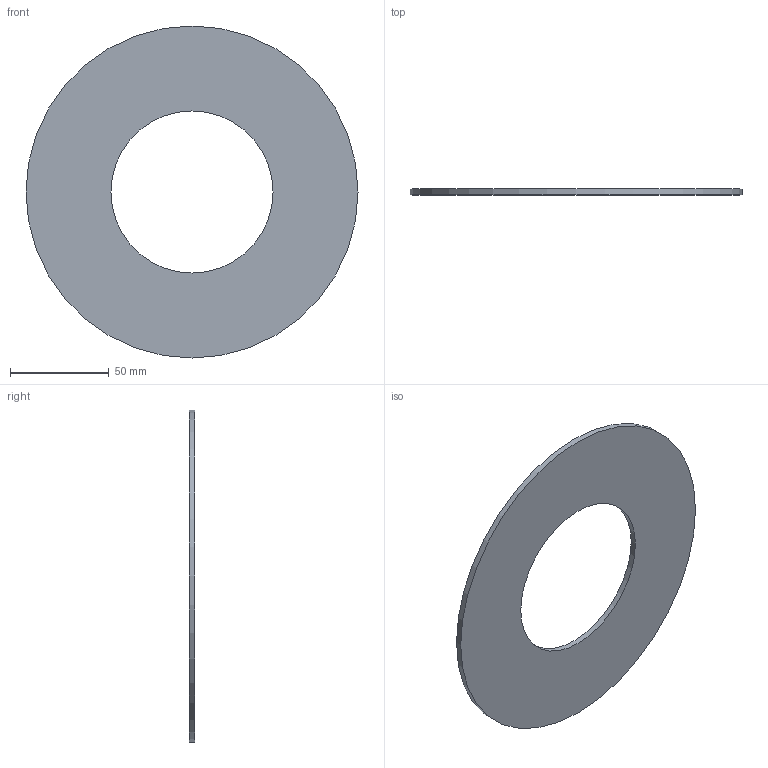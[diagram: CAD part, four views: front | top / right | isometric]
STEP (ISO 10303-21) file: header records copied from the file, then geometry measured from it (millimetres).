
FILE_DESCRIPTION(/* description */ ('Unknown'),/* implementation_level */ '2;1');
FILE_NAME(/* name */ 'GUA.110H',/* time_stamp */ '2021-04-01T15:02:49+02:00',/* author */ ('Unknown'),/* organization */ ('Unknown'),/* preprocessor_version */ 'ST-DEVELOPER v16.7',/* originating_system */ 'Solid Edge',/* authorisation */ 'Unknown');
FILE_SCHEMA (('AUTOMOTIVE_DESIGN {1 0 10303 214 3 1 1}'));
Length unit declared in the file: millimetre
Products named in the file (1): GUA.110H
Bounding box: 168 x 3 x 168 mm (x, y, z)
Volume: 50658.2 mm3; surface area: 36128.3 mm2
Topology: 1 solids, 1 shells, 4 faces, 6 edges, 4 vertices
Faces by surface type: cylinder 2, plane 2
Full cylindrical faces by diameter (mm): 82 x1, 168 x1
Entity records: 118 total; most frequent: DIRECTION 18, CARTESIAN_POINT 13, AXIS2_PLACEMENT_3D 9, ORIENTED_EDGE 8, EDGE_LOOP 8, FACE_BOUND 8, EDGE_CURVE 4, VERTEX_POINT 4
